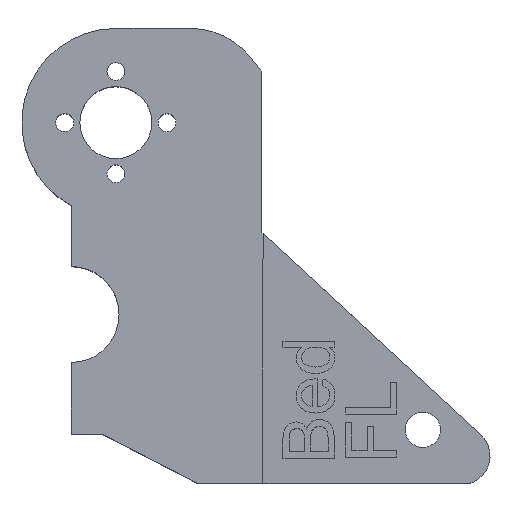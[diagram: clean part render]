
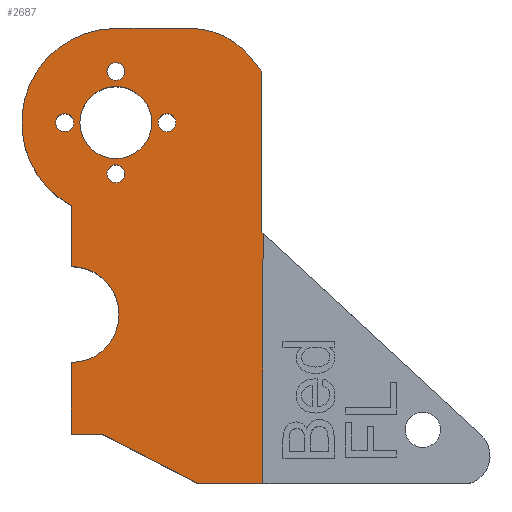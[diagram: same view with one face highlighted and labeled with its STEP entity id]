
A CAD part, top view. The second image highlights one B-rep face of the part: STEP entity #2687.
In plain terms, the highlighted planar face has unit normal (0, 0, 1) as drawn and (0, -1, 0) by its records, which use the part's own axes.
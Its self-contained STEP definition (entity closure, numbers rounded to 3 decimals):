
#229=FACE_BOUND('',#541,.T.);
#230=FACE_BOUND('',#542,.T.);
#231=FACE_BOUND('',#543,.T.);
#232=FACE_BOUND('',#544,.T.);
#233=FACE_BOUND('',#545,.T.);
#252=CIRCLE('',#2806,12.);
#253=CIRCLE('',#2807,14.726);
#254=CIRCLE('',#2808,7.5);
#255=CIRCLE('',#2809,1.4);
#256=CIRCLE('',#2810,1.4);
#257=CIRCLE('',#2811,1.4);
#258=CIRCLE('',#2812,1.4);
#259=CIRCLE('',#2813,5.625);
#373=FACE_OUTER_BOUND('',#540,.T.);
#540=EDGE_LOOP('',(#2347,#2348,#2349,#2350,#2351,#2352,#2353,#2354,#2355,
#2356,#2357,#2358,#2359,#2360,#2361));
#541=EDGE_LOOP('',(#2362));
#542=EDGE_LOOP('',(#2363));
#543=EDGE_LOOP('',(#2364));
#544=EDGE_LOOP('',(#2365));
#545=EDGE_LOOP('',(#2366));
#784=LINE('',#5001,#1030);
#787=LINE('',#5007,#1033);
#789=LINE('',#5011,#1035);
#790=LINE('',#5014,#1036);
#791=LINE('',#5016,#1037);
#792=LINE('',#5018,#1038);
#793=LINE('',#5022,#1039);
#794=LINE('',#5026,#1040);
#795=LINE('',#5028,#1041);
#796=LINE('',#5032,#1042);
#797=LINE('',#5034,#1043);
#798=LINE('',#5035,#1044);
#1030=VECTOR('',#3187,10.);
#1033=VECTOR('',#3194,10.);
#1035=VECTOR('',#3198,10.);
#1036=VECTOR('',#3201,10.);
#1037=VECTOR('',#3202,10.);
#1038=VECTOR('',#3203,10.);
#1039=VECTOR('',#3206,10.);
#1040=VECTOR('',#3209,10.);
#1041=VECTOR('',#3210,10.);
#1042=VECTOR('',#3213,10.);
#1043=VECTOR('',#3214,10.);
#1044=VECTOR('',#3215,10.);
#1311=VERTEX_POINT('',#4998);
#1312=VERTEX_POINT('',#5000);
#1313=VERTEX_POINT('',#5005);
#1314=VERTEX_POINT('',#5009);
#1315=VERTEX_POINT('',#5013);
#1316=VERTEX_POINT('',#5015);
#1317=VERTEX_POINT('',#5017);
#1318=VERTEX_POINT('',#5019);
#1319=VERTEX_POINT('',#5021);
#1320=VERTEX_POINT('',#5023);
#1321=VERTEX_POINT('',#5025);
#1322=VERTEX_POINT('',#5027);
#1323=VERTEX_POINT('',#5029);
#1324=VERTEX_POINT('',#5031);
#1325=VERTEX_POINT('',#5033);
#1326=VERTEX_POINT('',#5036);
#1327=VERTEX_POINT('',#5038);
#1328=VERTEX_POINT('',#5040);
#1329=VERTEX_POINT('',#5042);
#1330=VERTEX_POINT('',#5044);
#1668=EDGE_CURVE('',#1311,#1312,#784,.T.);
#1671=EDGE_CURVE('',#1313,#1311,#787,.T.);
#1673=EDGE_CURVE('',#1314,#1313,#789,.T.);
#1674=EDGE_CURVE('',#1315,#1314,#790,.T.);
#1675=EDGE_CURVE('',#1316,#1315,#791,.T.);
#1676=EDGE_CURVE('',#1317,#1316,#792,.T.);
#1677=EDGE_CURVE('',#1318,#1317,#252,.T.);
#1678=EDGE_CURVE('',#1319,#1318,#793,.T.);
#1679=EDGE_CURVE('',#1320,#1319,#253,.T.);
#1680=EDGE_CURVE('',#1321,#1320,#794,.T.);
#1681=EDGE_CURVE('',#1322,#1321,#795,.T.);
#1682=EDGE_CURVE('',#1323,#1322,#254,.T.);
#1683=EDGE_CURVE('',#1324,#1323,#796,.T.);
#1684=EDGE_CURVE('',#1325,#1324,#797,.T.);
#1685=EDGE_CURVE('',#1312,#1325,#798,.T.);
#1686=EDGE_CURVE('',#1326,#1326,#255,.T.);
#1687=EDGE_CURVE('',#1327,#1327,#256,.T.);
#1688=EDGE_CURVE('',#1328,#1328,#257,.T.);
#1689=EDGE_CURVE('',#1329,#1329,#258,.T.);
#1690=EDGE_CURVE('',#1330,#1330,#259,.T.);
#2347=ORIENTED_EDGE('',*,*,#1671,.F.);
#2348=ORIENTED_EDGE('',*,*,#1673,.F.);
#2349=ORIENTED_EDGE('',*,*,#1674,.F.);
#2350=ORIENTED_EDGE('',*,*,#1675,.F.);
#2351=ORIENTED_EDGE('',*,*,#1676,.F.);
#2352=ORIENTED_EDGE('',*,*,#1677,.F.);
#2353=ORIENTED_EDGE('',*,*,#1678,.F.);
#2354=ORIENTED_EDGE('',*,*,#1679,.F.);
#2355=ORIENTED_EDGE('',*,*,#1680,.F.);
#2356=ORIENTED_EDGE('',*,*,#1681,.F.);
#2357=ORIENTED_EDGE('',*,*,#1682,.F.);
#2358=ORIENTED_EDGE('',*,*,#1683,.F.);
#2359=ORIENTED_EDGE('',*,*,#1684,.F.);
#2360=ORIENTED_EDGE('',*,*,#1685,.F.);
#2361=ORIENTED_EDGE('',*,*,#1668,.F.);
#2362=ORIENTED_EDGE('',*,*,#1686,.F.);
#2363=ORIENTED_EDGE('',*,*,#1687,.F.);
#2364=ORIENTED_EDGE('',*,*,#1688,.F.);
#2365=ORIENTED_EDGE('',*,*,#1689,.F.);
#2366=ORIENTED_EDGE('',*,*,#1690,.F.);
#2556=PLANE('',#2805);
#2687=ADVANCED_FACE('',(#373,#229,#230,#231,#232,#233),#2556,.T.);
#2805=AXIS2_PLACEMENT_3D('',#5012,#3199,#3200);
#2806=AXIS2_PLACEMENT_3D('',#5020,#3204,#3205);
#2807=AXIS2_PLACEMENT_3D('',#5024,#3207,#3208);
#2808=AXIS2_PLACEMENT_3D('',#5030,#3211,#3212);
#2809=AXIS2_PLACEMENT_3D('',#5037,#3216,#3217);
#2810=AXIS2_PLACEMENT_3D('',#5039,#3218,#3219);
#2811=AXIS2_PLACEMENT_3D('',#5041,#3220,#3221);
#2812=AXIS2_PLACEMENT_3D('',#5043,#3222,#3223);
#2813=AXIS2_PLACEMENT_3D('',#5045,#3224,#3225);
#3187=DIRECTION('',(-1.,0.,0.));
#3194=DIRECTION('',(0.,0.,-1.));
#3198=DIRECTION('',(-0.002,0.,-1.));
#3199=DIRECTION('center_axis',(0.,-1.,0.));
#3200=DIRECTION('ref_axis',(1.,0.,0.));
#3201=DIRECTION('',(0.735,0.,-0.678));
#3202=DIRECTION('',(0.002,0.,-1.));
#3203=DIRECTION('',(0.625,0.,-0.781));
#3204=DIRECTION('center_axis',(0.,1.,0.));
#3205=DIRECTION('ref_axis',(0.433,0.,0.901));
#3206=DIRECTION('',(1.,0.,0.));
#3207=DIRECTION('center_axis',(0.,1.,0.));
#3208=DIRECTION('ref_axis',(1.,0.,0.));
#3209=DIRECTION('',(-1.,0.,0.));
#3210=DIRECTION('',(0.,0.,1.));
#3211=DIRECTION('center_axis',(0.,-1.,0.));
#3212=DIRECTION('ref_axis',(1.,0.,0.));
#3213=DIRECTION('',(0.,0.,1.));
#3214=DIRECTION('',(-1.,0.,0.));
#3215=DIRECTION('',(-0.889,0.,0.457));
#3216=DIRECTION('center_axis',(0.,-1.,0.));
#3217=DIRECTION('ref_axis',(1.,0.,0.));
#3218=DIRECTION('center_axis',(0.,-1.,0.));
#3219=DIRECTION('ref_axis',(1.,0.,0.));
#3220=DIRECTION('center_axis',(0.,-1.,0.));
#3221=DIRECTION('ref_axis',(1.,0.,0.));
#3222=DIRECTION('center_axis',(0.,-1.,0.));
#3223=DIRECTION('ref_axis',(1.,0.,0.));
#3224=DIRECTION('center_axis',(0.,-1.,0.));
#3225=DIRECTION('ref_axis',(1.,0.,0.));
#4998=CARTESIAN_POINT('',(-270.,174.,-83.399));
#5000=CARTESIAN_POINT('',(-280.249,174.,-83.399));
#5001=CARTESIAN_POINT('',(-200.062,174.,-83.399));
#5005=CARTESIAN_POINT('',(-270.,174.,-50.004));
#5007=CARTESIAN_POINT('',(-270.,174.,-108.07));
#5009=CARTESIAN_POINT('',(-269.987,174.,-44.323));
#5011=CARTESIAN_POINT('',(-270.132,174.,-107.948));
#5012=CARTESIAN_POINT('Origin',(-162.464,174.,-166.137));
#5013=CARTESIAN_POINT('',(-270.189,174.,-44.137));
#5014=CARTESIAN_POINT('',(-210.707,174.,-99.05));
#5015=CARTESIAN_POINT('',(-270.247,174.,-18.939));
#5016=CARTESIAN_POINT('',(-270.079,174.,-92.191));
#5017=CARTESIAN_POINT('',(-271.978,174.,-16.775));
#5018=CARTESIAN_POINT('',(-203.23,174.,-102.666));
#5019=CARTESIAN_POINT('',(-281.347,174.,-12.274));
#5020=CARTESIAN_POINT('Origin',(-281.347,174.,-24.274));
#5021=CARTESIAN_POINT('',(-293.,174.,-12.274));
#5022=CARTESIAN_POINT('',(-227.732,174.,-12.274));
#5023=CARTESIAN_POINT('',(-300.036,174.,-39.937));
#5024=CARTESIAN_POINT('Origin',(-293.,174.,-27.));
#5025=CARTESIAN_POINT('',(-300.,174.,-39.937));
#5026=CARTESIAN_POINT('',(-231.232,174.,-39.937));
#5027=CARTESIAN_POINT('',(-300.,174.,-49.5));
#5028=CARTESIAN_POINT('',(-300.,174.,-123.44));
#5029=CARTESIAN_POINT('',(-300.,174.,-64.5));
#5030=CARTESIAN_POINT('Origin',(-300.,174.,-57.));
#5031=CARTESIAN_POINT('',(-300.,174.,-75.737));
#5032=CARTESIAN_POINT('',(-300.,174.,-123.44));
#5033=CARTESIAN_POINT('',(-295.145,174.,-75.737));
#5034=CARTESIAN_POINT('',(-228.804,174.,-75.737));
#5035=CARTESIAN_POINT('',(-216.851,174.,-116.008));
#5036=CARTESIAN_POINT('',(-294.4,174.,-19.));
#5037=CARTESIAN_POINT('Origin',(-293.,174.,-19.));
#5038=CARTESIAN_POINT('',(-302.4,174.,-27.));
#5039=CARTESIAN_POINT('Origin',(-301.,174.,-27.));
#5040=CARTESIAN_POINT('',(-286.4,174.,-27.));
#5041=CARTESIAN_POINT('Origin',(-285.,174.,-27.));
#5042=CARTESIAN_POINT('',(-294.4,174.,-35.));
#5043=CARTESIAN_POINT('Origin',(-293.,174.,-35.));
#5044=CARTESIAN_POINT('',(-298.625,174.,-27.));
#5045=CARTESIAN_POINT('Origin',(-293.,174.,-27.));
